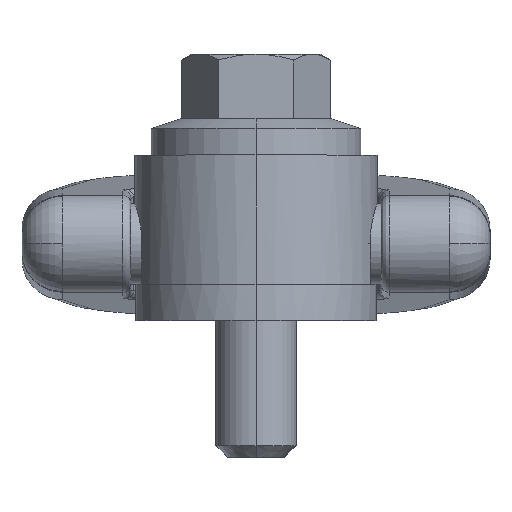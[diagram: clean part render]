
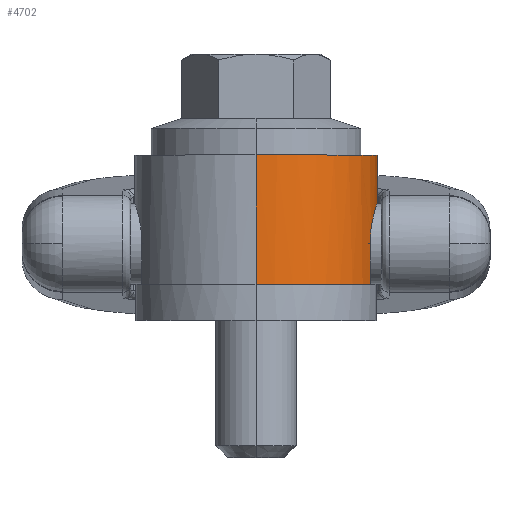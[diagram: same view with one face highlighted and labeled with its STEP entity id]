
A CAD part, top view. The second image highlights one B-rep face of the part: STEP entity #4702.
In plain terms, the highlighted cylindrical face has radius 15 mm (diameter 30 mm), a partial arc.
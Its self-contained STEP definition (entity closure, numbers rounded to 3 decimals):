
#1373 = CARTESIAN_POINT ( 'NONE',  ( 14.142, 9.5, -5. ) ) ;
#1400 = CARTESIAN_POINT ( 'NONE',  ( 0., 20.5, 15. ) ) ;
#1405 = CARTESIAN_POINT ( 'NONE',  ( 0., 20.5, -15. ) ) ;
#1406 = DIRECTION ( 'NONE',  ( 0., -1., 0. ) ) ;
#1407 = VECTOR ( 'NONE', #1406, 1000. ) ;
#1408 = CARTESIAN_POINT ( 'NONE',  ( 0., 33., 15. ) ) ;
#1409 = LINE ( 'NONE', #1408, #1407 ) ;
#1411 = DIRECTION ( 'NONE',  ( 0., 0., 1. ) ) ;
#1412 = DIRECTION ( 'NONE',  ( 0., 1., 0. ) ) ;
#1413 = CARTESIAN_POINT ( 'NONE',  ( 0., 20.5, 0. ) ) ;
#1414 = AXIS2_PLACEMENT_3D ( 'NONE', #1413, #1412, #1411 ) ;
#1415 = CIRCLE ( 'NONE', #1414, 15. ) ;
#1416 = CARTESIAN_POINT ( 'NONE',  ( 0., 4.5, 15. ) ) ;
#1426 = B_SPLINE_CURVE_WITH_KNOTS ( 'NONE', 3,
 ( #1495, #1494, #1493, #1492, #1491, #1490, #1489, #1488, #1487, #1486, #1485, #1484, #1483, #1482, #1481, #1480, #1479, #1478, #1477, #1476, #1475, #1474, #1473, #1472, #1471, #1470, #1469, #1468, #1467, #1466, #1465, #1464, #1463, #1462, #1461, #1460 ),
 .UNSPECIFIED., .F., .F.,
 ( 4, 2, 2, 2, 2, 2, 2, 2, 2, 2, 2, 2, 2, 2, 2, 2, 2, 4 ),
 ( 0., 0.001, 0.002, 0.003, 0.004, 0.005, 0.006, 0.006, 0.007, 0.008, 0.009, 0.01, 0.011, 0.012, 0.013, 0.014, 0.015, 0.016 ),
 .UNSPECIFIED. ) ;
#1427 = CARTESIAN_POINT ( 'NONE',  ( 14.142, 4.5, 5. ) ) ;
#1432 = DIRECTION ( 'NONE',  ( 0., 0., -1. ) ) ;
#1433 = DIRECTION ( 'NONE',  ( 0., -1., 0. ) ) ;
#1434 = AXIS2_PLACEMENT_3D ( 'NONE', #1436, #1433, #1432 ) ;
#1435 = CARTESIAN_POINT ( 'NONE',  ( 0., 4.5, -15. ) ) ;
#1436 = CARTESIAN_POINT ( 'NONE',  ( 0., 33., 0. ) ) ;
#1437 = CYLINDRICAL_SURFACE ( 'NONE', #1434, 15. ) ;
#1438 = FACE_OUTER_BOUND ( 'NONE', #4671, .T. ) ;
#1439 = DIRECTION ( 'NONE',  ( 0., 0., -1. ) ) ;
#1440 = DIRECTION ( 'NONE',  ( 0., -1., 0. ) ) ;
#1441 = CARTESIAN_POINT ( 'NONE',  ( 0., 4.5, 0. ) ) ;
#1442 = AXIS2_PLACEMENT_3D ( 'NONE', #1441, #1440, #1439 ) ;
#1443 = CIRCLE ( 'NONE', #1442, 15. ) ;
#1444 = CARTESIAN_POINT ( 'NONE',  ( 14.142, 4.5, -5. ) ) ;
#1449 = DIRECTION ( 'NONE',  ( 0., -1., 0. ) ) ;
#1450 = VECTOR ( 'NONE', #1449, 1000. ) ;
#1451 = CARTESIAN_POINT ( 'NONE',  ( 14.142, 33., -5. ) ) ;
#1452 = LINE ( 'NONE', #1451, #1450 ) ;
#1455 = CARTESIAN_POINT ( 'NONE',  ( 14.142, 9.5, 5. ) ) ;
#1456 = DIRECTION ( 'NONE',  ( 0., 1., 0. ) ) ;
#1457 = VECTOR ( 'NONE', #1456, 1000. ) ;
#1458 = CARTESIAN_POINT ( 'NONE',  ( 14.142, 33., 5. ) ) ;
#1459 = LINE ( 'NONE', #1458, #1457 ) ;
#1460 = CARTESIAN_POINT ( 'NONE',  ( 14.142, 9.5, -5. ) ) ;
#1461 = CARTESIAN_POINT ( 'NONE',  ( 14.142, 9.833, -5. ) ) ;
#1462 = CARTESIAN_POINT ( 'NONE',  ( 14.154, 10.165, -4.967 ) ) ;
#1463 = CARTESIAN_POINT ( 'NONE',  ( 14.199, 10.812, -4.836 ) ) ;
#1464 = CARTESIAN_POINT ( 'NONE',  ( 14.232, 11.124, -4.74 ) ) ;
#1465 = CARTESIAN_POINT ( 'NONE',  ( 14.313, 11.725, -4.489 ) ) ;
#1466 = CARTESIAN_POINT ( 'NONE',  ( 14.362, 12.017, -4.332 ) ) ;
#1467 = CARTESIAN_POINT ( 'NONE',  ( 14.466, 12.557, -3.97 ) ) ;
#1468 = CARTESIAN_POINT ( 'NONE',  ( 14.522, 12.806, -3.765 ) ) ;
#1469 = CARTESIAN_POINT ( 'NONE',  ( 14.633, 13.266, -3.305 ) ) ;
#1470 = CARTESIAN_POINT ( 'NONE',  ( 14.689, 13.475, -3.05 ) ) ;
#1471 = CARTESIAN_POINT ( 'NONE',  ( 14.791, 13.836, -2.511 ) ) ;
#1472 = CARTESIAN_POINT ( 'NONE',  ( 14.838, 13.991, -2.222 ) ) ;
#1473 = CARTESIAN_POINT ( 'NONE',  ( 14.916, 14.244, -1.614 ) ) ;
#1474 = CARTESIAN_POINT ( 'NONE',  ( 14.947, 14.339, -1.301 ) ) ;
#1475 = CARTESIAN_POINT ( 'NONE',  ( 14.989, 14.467, -0.657 ) ) ;
#1476 = CARTESIAN_POINT ( 'NONE',  ( 15., 14.5, -0.323 ) ) ;
#1477 = CARTESIAN_POINT ( 'NONE',  ( 15., 14.5, 0.334 ) ) ;
#1478 = CARTESIAN_POINT ( 'NONE',  ( 14.989, 14.467, 0.66 ) ) ;
#1479 = CARTESIAN_POINT ( 'NONE',  ( 14.957, 14.37, 1.145 ) ) ;
#1480 = CARTESIAN_POINT ( 'NONE',  ( 14.944, 14.329, 1.306 ) ) ;
#1481 = CARTESIAN_POINT ( 'NONE',  ( 14.913, 14.233, 1.621 ) ) ;
#1482 = CARTESIAN_POINT ( 'NONE',  ( 14.895, 14.177, 1.774 ) ) ;
#1483 = CARTESIAN_POINT ( 'NONE',  ( 14.837, 13.99, 2.225 ) ) ;
#1484 = CARTESIAN_POINT ( 'NONE',  ( 14.791, 13.836, 2.512 ) ) ;
#1485 = CARTESIAN_POINT ( 'NONE',  ( 14.688, 13.47, 3.057 ) ) ;
#1486 = CARTESIAN_POINT ( 'NONE',  ( 14.633, 13.264, 3.307 ) ) ;
#1487 = CARTESIAN_POINT ( 'NONE',  ( 14.522, 12.806, 3.765 ) ) ;
#1488 = CARTESIAN_POINT ( 'NONE',  ( 14.465, 12.552, 3.974 ) ) ;
#1489 = CARTESIAN_POINT ( 'NONE',  ( 14.361, 12.01, 4.336 ) ) ;
#1490 = CARTESIAN_POINT ( 'NONE',  ( 14.313, 11.724, 4.49 ) ) ;
#1491 = CARTESIAN_POINT ( 'NONE',  ( 14.232, 11.12, 4.741 ) ) ;
#1492 = CARTESIAN_POINT ( 'NONE',  ( 14.198, 10.802, 4.839 ) ) ;
#1493 = CARTESIAN_POINT ( 'NONE',  ( 14.154, 10.16, 4.967 ) ) ;
#1494 = CARTESIAN_POINT ( 'NONE',  ( 14.142, 9.833, 5. ) ) ;
#1495 = CARTESIAN_POINT ( 'NONE',  ( 14.142, 9.5, 5. ) ) ;
#1497 = DIRECTION ( 'NONE',  ( 0., -1., 0. ) ) ;
#1498 = VECTOR ( 'NONE', #1497, 1000. ) ;
#1499 = CARTESIAN_POINT ( 'NONE',  ( 0., 33., -15. ) ) ;
#1500 = LINE ( 'NONE', #1499, #1498 ) ;
#1517 = DIRECTION ( 'NONE',  ( 0., 0., -1. ) ) ;
#1518 = DIRECTION ( 'NONE',  ( 0., -1., 0. ) ) ;
#1519 = CARTESIAN_POINT ( 'NONE',  ( 0., 4.5, 0. ) ) ;
#1520 = AXIS2_PLACEMENT_3D ( 'NONE', #1519, #1518, #1517 ) ;
#1521 = CIRCLE ( 'NONE', #1520, 15. ) ;
#4667 = ORIENTED_EDGE ( 'NONE', *, *, #4694, .T. ) ;
#4668 = VERTEX_POINT ( 'NONE', #1373 ) ;
#4671 = EDGE_LOOP ( 'NONE', ( #4679, #4680, #4714, #4710, #4708, #4667, #4700, #4726 ) ) ;
#4679 = ORIENTED_EDGE ( 'NONE', *, *, #4684, .F. ) ;
#4680 = ORIENTED_EDGE ( 'NONE', *, *, #4686, .T. ) ;
#4681 = VERTEX_POINT ( 'NONE', #1416 ) ;
#4684 = EDGE_CURVE ( 'NONE', #4689, #4687, #1415, .T. ) ;
#4686 = EDGE_CURVE ( 'NONE', #4689, #4681, #1409, .T. ) ;
#4687 = VERTEX_POINT ( 'NONE', #1405 ) ;
#4689 = VERTEX_POINT ( 'NONE', #1400 ) ;
#4694 = EDGE_CURVE ( 'NONE', #4668, #4698, #1452, .T. ) ;
#4698 = VERTEX_POINT ( 'NONE', #1444 ) ;
#4699 = EDGE_CURVE ( 'NONE', #4703, #4698, #1443, .T. ) ;
#4700 = ORIENTED_EDGE ( 'NONE', *, *, #4699, .F. ) ;
#4702 = ADVANCED_FACE ( 'NONE', ( #1438 ), #1437, .T. ) ;
#4703 = VERTEX_POINT ( 'NONE', #1435 ) ;
#4705 = EDGE_CURVE ( 'NONE', #4709, #4668, #1426, .T. ) ;
#4706 = VERTEX_POINT ( 'NONE', #1427 ) ;
#4707 = EDGE_CURVE ( 'NONE', #4706, #4709, #1459, .T. ) ;
#4708 = ORIENTED_EDGE ( 'NONE', *, *, #4705, .T. ) ;
#4709 = VERTEX_POINT ( 'NONE', #1455 ) ;
#4710 = ORIENTED_EDGE ( 'NONE', *, *, #4707, .T. ) ;
#4714 = ORIENTED_EDGE ( 'NONE', *, *, #4719, .F. ) ;
#4719 = EDGE_CURVE ( 'NONE', #4706, #4681, #1521, .T. ) ;
#4726 = ORIENTED_EDGE ( 'NONE', *, *, #4728, .F. ) ;
#4728 = EDGE_CURVE ( 'NONE', #4687, #4703, #1500, .T. ) ;
